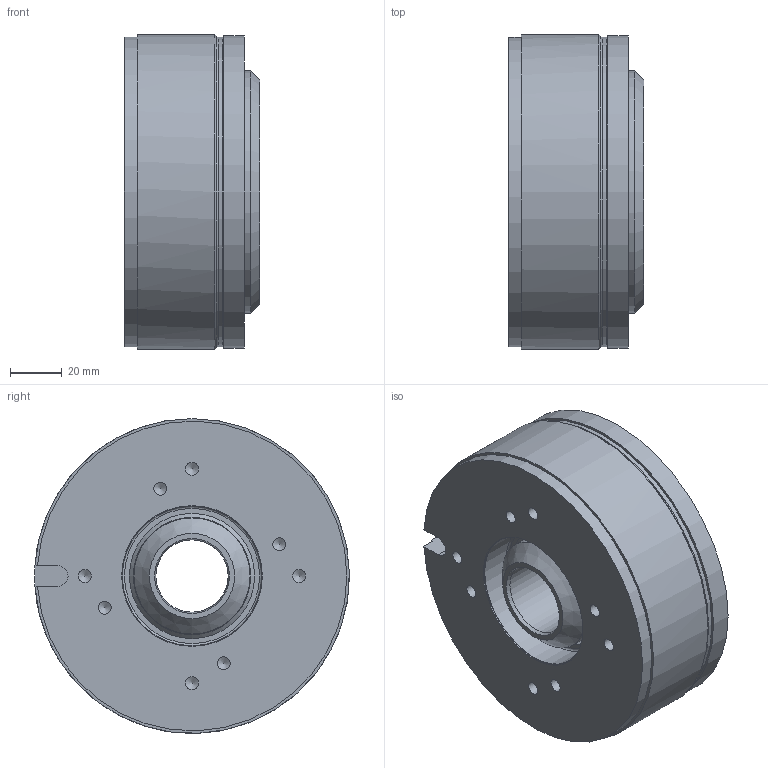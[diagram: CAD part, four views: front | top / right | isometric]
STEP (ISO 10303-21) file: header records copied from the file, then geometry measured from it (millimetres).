
FILE_DESCRIPTION (( 'STEP AP214' ), '1' );
FILE_NAME ('86 61111P00-0005_Index c.STEP', '2020-02-10T06:37:48', ( '' ), ( '' ), 'SwSTEP 2.0', 'SolidWorks 2018', '' );
FILE_SCHEMA (( 'AUTOMOTIVE_DESIGN' ));
Length unit declared in the file: millimetre
Products named in the file (1): 86 61111P00-0005_Index c
Bounding box: 52.54 x 122 x 122 mm (x, y, z)
Volume: 514469.8 mm3; surface area: 78704.1 mm2
Topology: 2 solids, 2 shells, 69 faces, 144 edges, 89 vertices
Faces by surface type: cylinder 28, plane 18, cone 18, torus 5
Full cylindrical faces by diameter (mm): 5 x8, 8.5 x3, 28 x1, 28.2 x1, 45 x1, 45.5 x1, 48.5 x1, 54 x1, 54.5 x1, 57 x1, 58 x1, 60 x1, 94 x2, 120 x1, 121 x1, 122 x1
Entity records: 2067 total; most frequent: CARTESIAN_POINT 643, DIRECTION 282, ORIENTED_EDGE 166, EDGE_LOOP 138, AXIS2_PLACEMENT_3D 135, FACE_OUTER_BOUND 100, EDGE_CURVE 83, VERTEX_POINT 77
